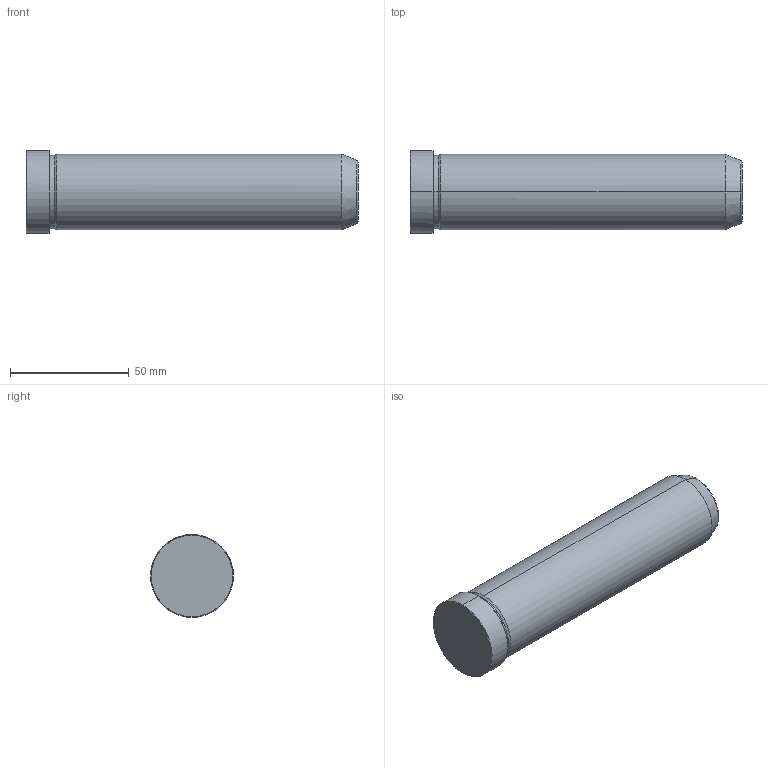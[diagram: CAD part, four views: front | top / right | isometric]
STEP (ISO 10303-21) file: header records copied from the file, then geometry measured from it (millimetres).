
FILE_DESCRIPTION(('CATIA V5 STEP Exchange'),'2;1');
FILE_NAME('C:\Users\Utente\Desktop\IO LAVORO\3D X SITO CF\X SITO\PLASTICA\549\549-32X140.stp','2021-12-18T08:07:46+00:00',('none'),('none'),'CATIA Version 5 Release 20 GA (IN-10)','CATIA V5 STEP AP203','none');
FILE_SCHEMA(('CONFIG_CONTROL_DESIGN'));
Length unit declared in the file: millimetre
Products named in the file (1): 549-32X140
Bounding box: 140 x 35 x 35 mm (x, y, z)
Volume: 113099.8 mm3; surface area: 15824.4 mm2
Topology: 1 solids, 1 shells, 19 faces, 56 edges, 40 vertices
Faces by surface type: cone 8, cylinder 6, plane 3, torus 2
Entity records: 736 total; most frequent: CARTESIAN_POINT 192, ORIENTED_EDGE 112, DIRECTION 86, EDGE_CURVE 56, AXIS2_PLACEMENT_3D 54, VERTEX_POINT 40, CIRCLE 34, EDGE_LOOP 20
